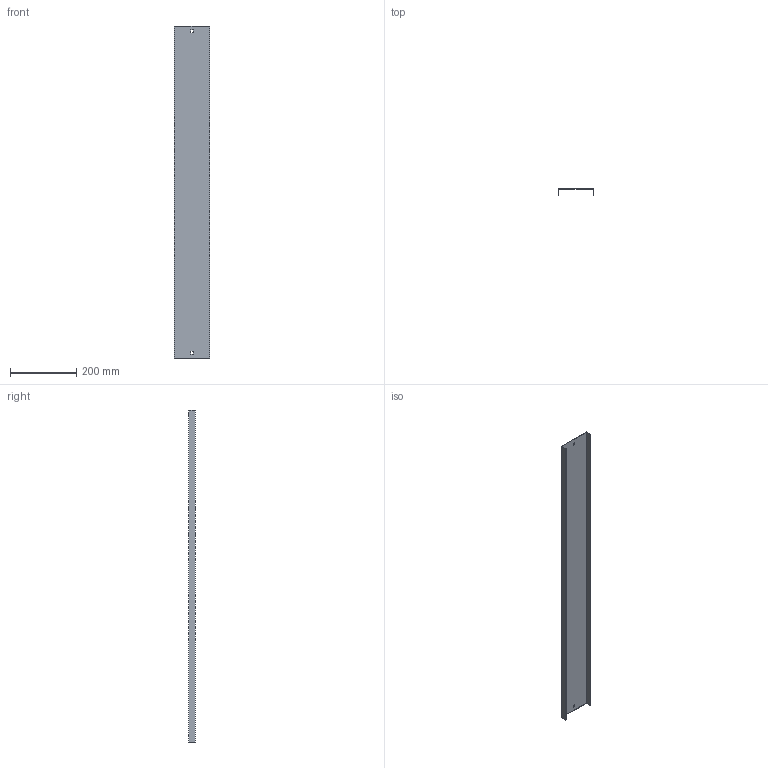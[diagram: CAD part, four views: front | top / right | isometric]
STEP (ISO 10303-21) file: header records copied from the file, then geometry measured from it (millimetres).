
FILE_DESCRIPTION (( 'STEP AP214' ), '1' );
FILE_NAME ('05G1R100.step', '2025-02-21T13:06:39', ( '' ), ( '' ), 'SwSTEP 2.0', 'SolidWorks 2023', '' );
FILE_SCHEMA (( 'AUTOMOTIVE_DESIGN' ));
Length unit declared in the file: millimetre
Products named in the file (1): 05G1R100
Bounding box: 107 x 20 x 1000 mm (x, y, z)
Volume: 215824.5 mm3; surface area: 291291 mm2
Topology: 1 solids, 1 shells, 18 faces, 48 edges, 32 vertices
Faces by surface type: plane 18
Entity records: 583 total; most frequent: CARTESIAN_POINT 99, ORIENTED_EDGE 96, DIRECTION 86, VECTOR 48, EDGE_CURVE 48, LINE 48, VERTEX_POINT 32, EDGE_LOOP 22
